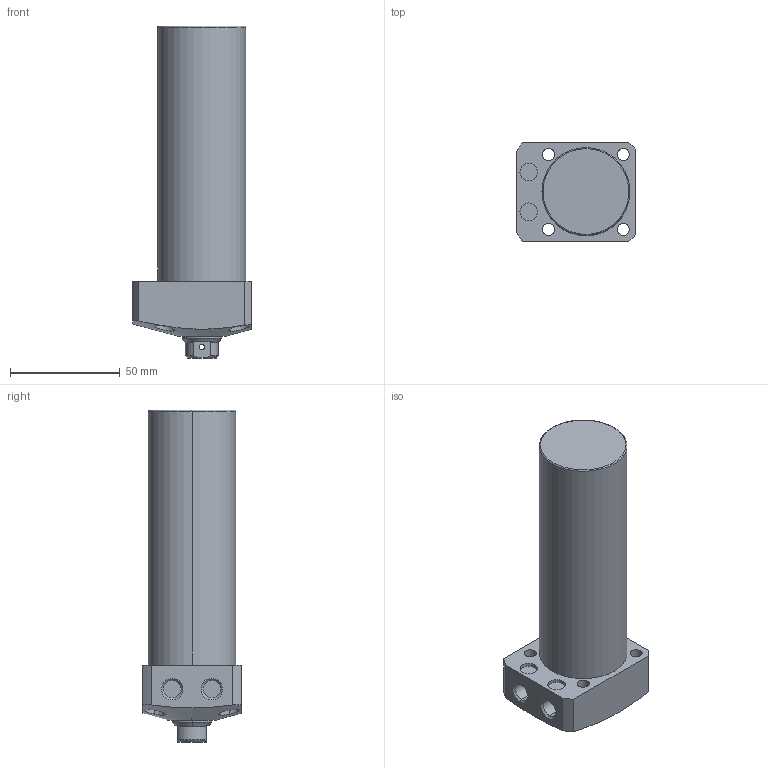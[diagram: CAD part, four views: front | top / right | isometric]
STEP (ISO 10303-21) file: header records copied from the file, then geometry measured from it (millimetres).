
FILE_DESCRIPTION (( 'STEP AP203' ), '1' );
FILE_NAME ('CLL-040CB-090.STEP', '2019-12-21T03:55:21', ( '' ), ( '' ), 'SwSTEP 2.0', 'SolidWorks 2015', '' );
FILE_SCHEMA (( 'CONFIG_CONTROL_DESIGN' ));
Length unit declared in the file: millimetre
Products named in the file (1): CLL-040CB-090
Bounding box: 54 x 45 x 151 mm (x, y, z)
Volume: 196177.2 mm3; surface area: 26710 mm2
Topology: 1 solids, 1 shells, 78 faces, 182 edges, 115 vertices
Faces by surface type: cylinder 39, plane 22, cone 15, torus 2
Entity records: 2721 total; most frequent: CARTESIAN_POINT 822, DIRECTION 394, ORIENTED_EDGE 360, EDGE_CURVE 180, AXIS2_PLACEMENT_3D 163, VERTEX_POINT 115, EDGE_LOOP 101, CIRCLE 84
